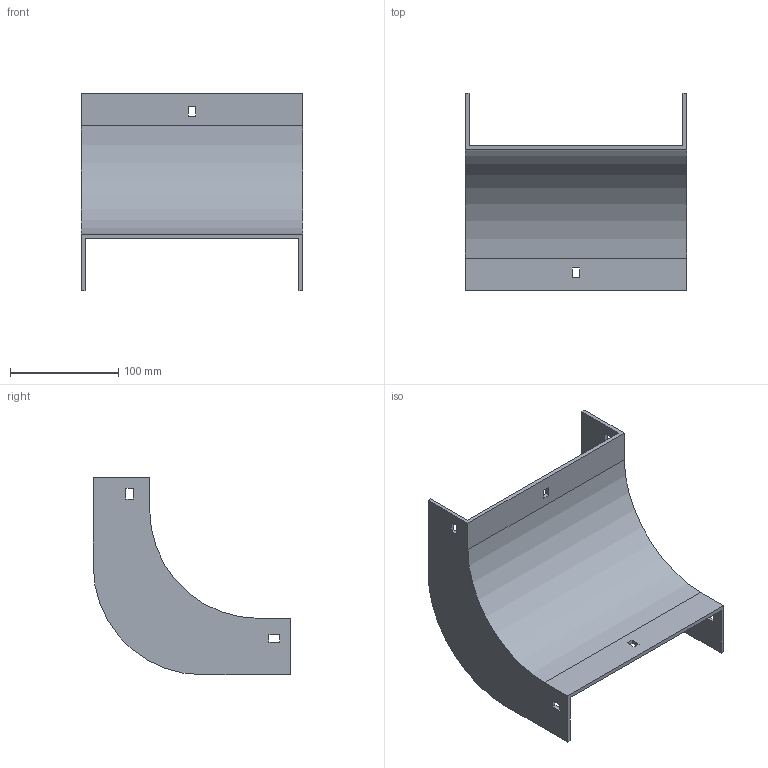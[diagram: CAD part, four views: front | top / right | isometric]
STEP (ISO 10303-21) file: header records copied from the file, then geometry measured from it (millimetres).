
FILE_DESCRIPTION (( 'STEP AP214' ), '1' );
FILE_NAME ('33F1B200.step', '2025-02-21T12:52:24', ( '' ), ( '' ), 'SwSTEP 2.0', 'SolidWorks 2023', '' );
FILE_SCHEMA (( 'AUTOMOTIVE_DESIGN' ));
Length unit declared in the file: millimetre
Products named in the file (1): 33F1B200
Bounding box: 204 x 182 x 182 mm (x, y, z)
Volume: 263750.3 mm3; surface area: 155742.8 mm2
Topology: 1 solids, 1 shells, 42 faces, 120 edges, 80 vertices
Faces by surface type: plane 38, cylinder 4
Entity records: 1399 total; most frequent: CARTESIAN_POINT 243, ORIENTED_EDGE 240, DIRECTION 214, EDGE_CURVE 120, VECTOR 112, LINE 112, VERTEX_POINT 80, EDGE_LOOP 54
